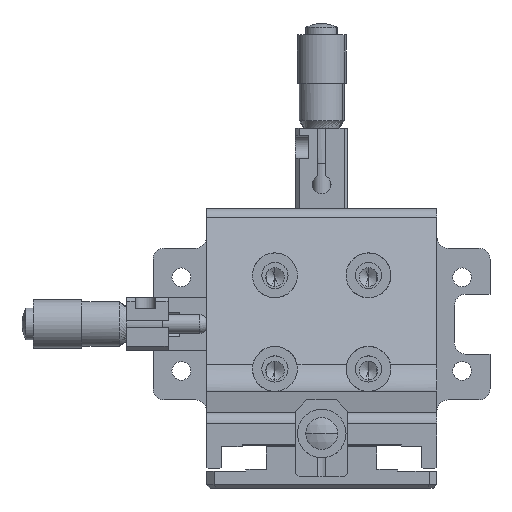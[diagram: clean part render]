
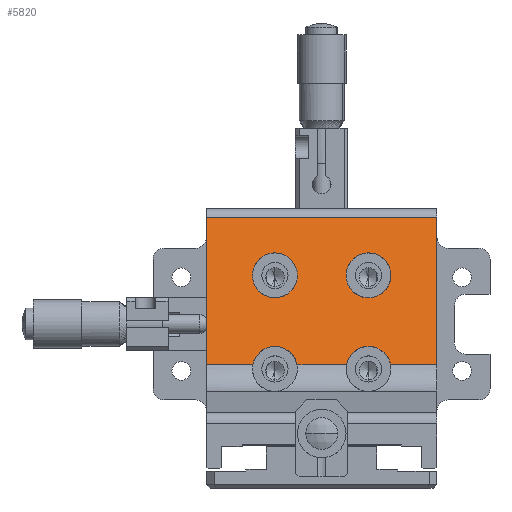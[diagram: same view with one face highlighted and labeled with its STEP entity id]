
A CAD part, top view. The second image highlights one B-rep face of the part: STEP entity #5820.
In plain terms, the highlighted planar face has unit normal (0, 0.259, 0.966) as drawn and (-0.259, 0.966, 0) by its records, which use the part's own axes.
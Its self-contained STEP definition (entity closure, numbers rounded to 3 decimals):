
#59 = VERTEX_POINT ( 'NONE', #980 ) ;
#245 = DIRECTION ( 'NONE',  ( 0., 0., -1. ) ) ;
#354 = CARTESIAN_POINT ( 'NONE',  ( -34.557, -22.766, -18.5 ) ) ;
#434 = ORIENTED_EDGE ( 'NONE', *, *, #7371, .T. ) ;
#580 = CARTESIAN_POINT ( 'NONE',  ( -50.133, -26.94, -30.75 ) ) ;
#660 = VERTEX_POINT ( 'NONE', #9014 ) ;
#811 = EDGE_CURVE ( 'NONE', #660, #4771, #11639, .T. ) ;
#885 = CARTESIAN_POINT ( 'NONE',  ( -34.557, -22.766, 18.5 ) ) ;
#980 = CARTESIAN_POINT ( 'NONE',  ( -10.717, -16.378, -18.387 ) ) ;
#1094 = CARTESIAN_POINT ( 'NONE',  ( -19.046, -18.61, -16.745 ) ) ;
#1167 = CARTESIAN_POINT ( 'NONE',  ( -19.046, -18.61, 8.255 ) ) ;
#1235 = CARTESIAN_POINT ( 'NONE',  ( -34.557, -22.766, 18.5 ) ) ;
#1338 = CARTESIAN_POINT ( 'NONE',  ( -10.717, -16.378, 30.75 ) ) ;
#1469 = PLANE ( 'NONE',  #7745 ) ;
#1835 = VERTEX_POINT ( 'NONE', #5609 ) ;
#1861 = VECTOR ( 'NONE', #7635, 1000. ) ;
#2010 = VERTEX_POINT ( 'NONE', #10481 ) ;
#2093 = EDGE_CURVE ( 'NONE', #11769, #1835, #9174, .T. ) ;
#2137 = CARTESIAN_POINT ( 'NONE',  ( -34.557, -22.766, 6.5 ) ) ;
#2180 = CARTESIAN_POINT ( 'NONE',  ( -50.133, -26.94, 30.75 ) ) ;
#2298 = FACE_OUTER_BOUND ( 'NONE', #9916, .T. ) ;
#2351 = VERTEX_POINT ( 'NONE', #1338 ) ;
#2419 = CARTESIAN_POINT ( 'NONE',  ( -34.557, -22.766, 6.5 ) ) ;
#2420 = EDGE_CURVE ( 'NONE', #59, #9078, #2618, .T. ) ;
#2618 = LINE ( 'NONE', #12606, #1861 ) ;
#2673 = FACE_BOUND ( 'NONE', #10612, .T. ) ;
#2707 = DIRECTION ( 'NONE',  ( 0.259, -0.966, 0. ) ) ;
#3194 = CARTESIAN_POINT ( 'NONE',  ( -50.133, -26.94, -30.75 ) ) ;
#3405 =( BOUNDED_CURVE ( )  B_SPLINE_CURVE ( 3, ( #885, #15763, #7076, #2137 ),
 .UNSPECIFIED., .F., .F. ) 
 B_SPLINE_CURVE_WITH_KNOTS ( ( 4, 4 ),
 ( 1.571, 4.712 ),
 .UNSPECIFIED. ) 
 CURVE ( )  GEOMETRIC_REPRESENTATION_ITEM ( )  RATIONAL_B_SPLINE_CURVE ( ( 1., 0.333, 0.333, 1. ) ) 
 REPRESENTATION_ITEM ( '' )  );
#3815 = VECTOR ( 'NONE', #11904, 1000. ) ;
#4121 = VERTEX_POINT ( 'NONE', #5591 ) ;
#4509 = CARTESIAN_POINT ( 'NONE',  ( -22.557, -19.55, -18.5 ) ) ;
#4717 = DIRECTION ( 'NONE',  ( 0., 0., -1. ) ) ;
#4771 = VERTEX_POINT ( 'NONE', #580 ) ;
#5253 = ORIENTED_EDGE ( 'NONE', *, *, #2093, .T. ) ;
#5304 = ORIENTED_EDGE ( 'NONE', *, *, #5474, .T. ) ;
#5387 = CARTESIAN_POINT ( 'NONE',  ( -50.133, -26.94, 30.75 ) ) ;
#5474 = EDGE_CURVE ( 'NONE', #1835, #11769, #7491, .T. ) ;
#5591 = CARTESIAN_POINT ( 'NONE',  ( -10.717, -16.378, -6.613 ) ) ;
#5609 = CARTESIAN_POINT ( 'NONE',  ( -34.557, -22.766, -6.5 ) ) ;
#5637 = FACE_BOUND ( 'NONE', #7327, .T. ) ;
#5663 = CARTESIAN_POINT ( 'NONE',  ( -46.557, -25.981, -18.5 ) ) ;
#5780 = CARTESIAN_POINT ( 'NONE',  ( -34.557, -22.766, -6.5 ) ) ;
#5820 = ADVANCED_FACE ( 'NONE', ( #5637, #2673, #2298 ), #1469, .F. ) ;
#5833 =( BOUNDED_CURVE ( )  B_SPLINE_CURVE ( 3, ( #2419, #7436, #8682, #1235 ),
 .UNSPECIFIED., .F., .F. ) 
 B_SPLINE_CURVE_WITH_KNOTS ( ( 4, 4 ),
 ( 4.712, 7.854 ),
 .UNSPECIFIED. ) 
 CURVE ( )  GEOMETRIC_REPRESENTATION_ITEM ( )  RATIONAL_B_SPLINE_CURVE ( ( 1., 0.333, 0.333, 1. ) ) 
 REPRESENTATION_ITEM ( '' )  );
#6045 = ORIENTED_EDGE ( 'NONE', *, *, #11178, .F. ) ;
#6128 = CARTESIAN_POINT ( 'NONE',  ( -19.046, -18.61, 16.745 ) ) ;
#6534 = EDGE_CURVE ( 'NONE', #9078, #4771, #10042, .T. ) ;
#7076 = CARTESIAN_POINT ( 'NONE',  ( -46.557, -25.981, 6.5 ) ) ;
#7168 = CARTESIAN_POINT ( 'NONE',  ( -10.717, -16.378, 30.75 ) ) ;
#7327 = EDGE_LOOP ( 'NONE', ( #5304, #5253 ) ) ;
#7371 = EDGE_CURVE ( 'NONE', #11663, #15383, #3405, .T. ) ;
#7436 = CARTESIAN_POINT ( 'NONE',  ( -22.557, -19.55, 6.5 ) ) ;
#7491 =( BOUNDED_CURVE ( )  B_SPLINE_CURVE ( 3, ( #9332, #15535, #5663, #14353 ),
 .UNSPECIFIED., .F., .F. ) 
 B_SPLINE_CURVE_WITH_KNOTS ( ( 4, 4 ),
 ( 1.571, 4.712 ),
 .UNSPECIFIED. ) 
 CURVE ( )  GEOMETRIC_REPRESENTATION_ITEM ( )  RATIONAL_B_SPLINE_CURVE ( ( 1., 0.333, 0.333, 1. ) ) 
 REPRESENTATION_ITEM ( '' )  );
#7580 = ORIENTED_EDGE ( 'NONE', *, *, #6534, .T. ) ;
#7596 = LINE ( 'NONE', #7168, #10101 ) ;
#7635 = DIRECTION ( 'NONE',  ( 0., 0., -1. ) ) ;
#7745 = AXIS2_PLACEMENT_3D ( 'NONE', #10149, #2707, #11412 ) ;
#7931 = DIRECTION ( 'NONE',  ( 0., 0., -1. ) ) ;
#8226 = ORIENTED_EDGE ( 'NONE', *, *, #12268, .T. ) ;
#8309 = EDGE_CURVE ( 'NONE', #2010, #4121, #13349, .T. ) ;
#8541 = CARTESIAN_POINT ( 'NONE',  ( -19.046, -18.61, -8.255 ) ) ;
#8682 = CARTESIAN_POINT ( 'NONE',  ( -22.557, -19.55, 18.5 ) ) ;
#8684 =( BOUNDED_CURVE ( )  B_SPLINE_CURVE ( 3, ( #15969, #8541, #1094, #9779 ),
 .UNSPECIFIED., .F., .F. ) 
 B_SPLINE_CURVE_WITH_KNOTS ( ( 4, 4 ),
 ( 1.765, 4.518 ),
 .UNSPECIFIED. ) 
 CURVE ( )  GEOMETRIC_REPRESENTATION_ITEM ( )  RATIONAL_B_SPLINE_CURVE ( ( 1., 0.462, 0.462, 1. ) ) 
 REPRESENTATION_ITEM ( '' )  );
#9014 = CARTESIAN_POINT ( 'NONE',  ( -50.133, -26.94, 30.75 ) ) ;
#9078 = VERTEX_POINT ( 'NONE', #12874 ) ;
#9174 =( BOUNDED_CURVE ( )  B_SPLINE_CURVE ( 3, ( #11966, #4509, #13224, #5780 ),
 .UNSPECIFIED., .F., .F. ) 
 B_SPLINE_CURVE_WITH_KNOTS ( ( 4, 4 ),
 ( 4.712, 7.854 ),
 .UNSPECIFIED. ) 
 CURVE ( )  GEOMETRIC_REPRESENTATION_ITEM ( )  RATIONAL_B_SPLINE_CURVE ( ( 1., 0.333, 0.333, 1. ) ) 
 REPRESENTATION_ITEM ( '' )  );
#9332 = CARTESIAN_POINT ( 'NONE',  ( -34.557, -22.766, -6.5 ) ) ;
#9501 = CARTESIAN_POINT ( 'NONE',  ( -34.557, -22.766, 6.5 ) ) ;
#9617 = DIRECTION ( 'NONE',  ( -0.966, -0.259, 0. ) ) ;
#9779 = CARTESIAN_POINT ( 'NONE',  ( -10.717, -16.378, -18.387 ) ) ;
#9851 = CARTESIAN_POINT ( 'NONE',  ( -10.717, -16.378, 6.613 ) ) ;
#9916 = EDGE_LOOP ( 'NONE', ( #10539, #12481, #14907, #7580, #12298, #6045, #14017, #15605 ) ) ;
#10042 = LINE ( 'NONE', #3194, #3815 ) ;
#10050 = CARTESIAN_POINT ( 'NONE',  ( -34.557, -22.766, 18.5 ) ) ;
#10101 = VECTOR ( 'NONE', #4717, 1000. ) ;
#10149 = CARTESIAN_POINT ( 'NONE',  ( -50.133, -26.94, 30.75 ) ) ;
#10232 = CARTESIAN_POINT ( 'NONE',  ( -10.717, -16.378, 30.75 ) ) ;
#10481 = CARTESIAN_POINT ( 'NONE',  ( -10.717, -16.378, 6.613 ) ) ;
#10484 = CARTESIAN_POINT ( 'NONE',  ( -10.717, -16.378, 18.387 ) ) ;
#10539 = ORIENTED_EDGE ( 'NONE', *, *, #8309, .T. ) ;
#10612 = EDGE_LOOP ( 'NONE', ( #434, #8226 ) ) ;
#11178 = EDGE_CURVE ( 'NONE', #2351, #660, #15009, .T. ) ;
#11412 = DIRECTION ( 'NONE',  ( 0.966, 0.259, 0. ) ) ;
#11542 = EDGE_CURVE ( 'NONE', #4121, #59, #8684, .T. ) ;
#11639 = LINE ( 'NONE', #5387, #14566 ) ;
#11663 = VERTEX_POINT ( 'NONE', #10050 ) ;
#11769 = VERTEX_POINT ( 'NONE', #354 ) ;
#11904 = DIRECTION ( 'NONE',  ( -0.966, -0.259, 0. ) ) ;
#11966 = CARTESIAN_POINT ( 'NONE',  ( -34.557, -22.766, -18.5 ) ) ;
#12114 = VECTOR ( 'NONE', #9617, 1000. ) ;
#12137 = EDGE_CURVE ( 'NONE', #2351, #15127, #7596, .T. ) ;
#12268 = EDGE_CURVE ( 'NONE', #15383, #11663, #5833, .T. ) ;
#12298 = ORIENTED_EDGE ( 'NONE', *, *, #811, .F. ) ;
#12481 = ORIENTED_EDGE ( 'NONE', *, *, #11542, .T. ) ;
#12606 = CARTESIAN_POINT ( 'NONE',  ( -10.717, -16.378, 30.75 ) ) ;
#12874 = CARTESIAN_POINT ( 'NONE',  ( -10.717, -16.378, -30.75 ) ) ;
#12948 = VECTOR ( 'NONE', #245, 1000. ) ;
#13224 = CARTESIAN_POINT ( 'NONE',  ( -22.557, -19.55, -6.5 ) ) ;
#13349 = LINE ( 'NONE', #10232, #12948 ) ;
#14017 = ORIENTED_EDGE ( 'NONE', *, *, #12137, .T. ) ;
#14353 = CARTESIAN_POINT ( 'NONE',  ( -34.557, -22.766, -18.5 ) ) ;
#14477 =( BOUNDED_CURVE ( )  B_SPLINE_CURVE ( 3, ( #14806, #6128, #1167, #9851 ),
 .UNSPECIFIED., .F., .F. ) 
 B_SPLINE_CURVE_WITH_KNOTS ( ( 4, 4 ),
 ( 1.765, 4.518 ),
 .UNSPECIFIED. ) 
 CURVE ( )  GEOMETRIC_REPRESENTATION_ITEM ( )  RATIONAL_B_SPLINE_CURVE ( ( 1., 0.462, 0.462, 1. ) ) 
 REPRESENTATION_ITEM ( '' )  );
#14566 = VECTOR ( 'NONE', #7931, 1000. ) ;
#14806 = CARTESIAN_POINT ( 'NONE',  ( -10.717, -16.378, 18.387 ) ) ;
#14907 = ORIENTED_EDGE ( 'NONE', *, *, #2420, .T. ) ;
#15009 = LINE ( 'NONE', #2180, #12114 ) ;
#15127 = VERTEX_POINT ( 'NONE', #10484 ) ;
#15383 = VERTEX_POINT ( 'NONE', #9501 ) ;
#15535 = CARTESIAN_POINT ( 'NONE',  ( -46.557, -25.981, -6.5 ) ) ;
#15605 = ORIENTED_EDGE ( 'NONE', *, *, #16053, .T. ) ;
#15763 = CARTESIAN_POINT ( 'NONE',  ( -46.557, -25.981, 18.5 ) ) ;
#15969 = CARTESIAN_POINT ( 'NONE',  ( -10.717, -16.378, -6.613 ) ) ;
#16053 = EDGE_CURVE ( 'NONE', #15127, #2010, #14477, .T. ) ;
